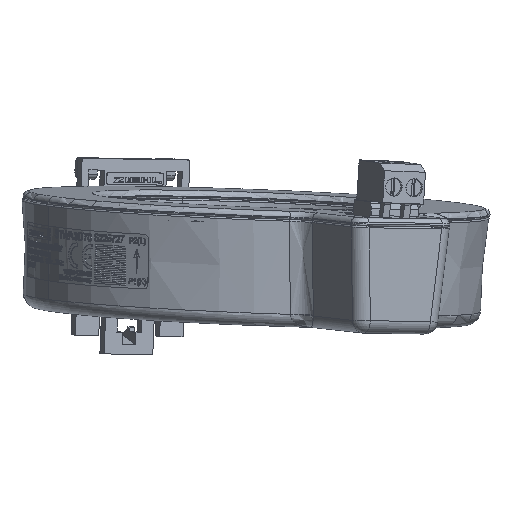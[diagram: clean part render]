
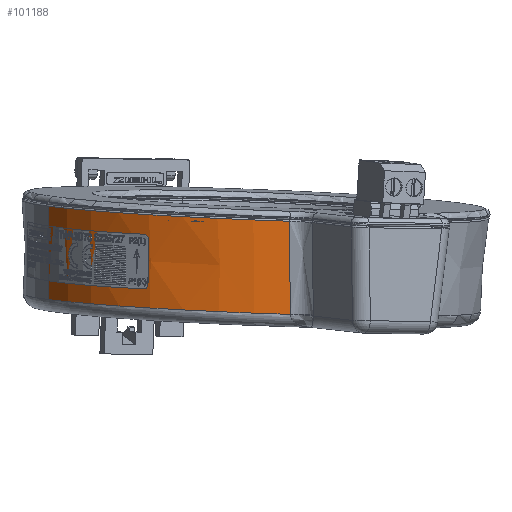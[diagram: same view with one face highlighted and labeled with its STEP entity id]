
A CAD part, front view. The second image highlights one B-rep face of the part: STEP entity #101188.
In plain terms, the highlighted conical face has half-angle 3 degrees and reference radius 51.172 mm.
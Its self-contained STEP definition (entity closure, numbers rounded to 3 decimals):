
#1287 = VERTEX_POINT ( 'NONE', #136589 ) ;
#8741 = DIRECTION ( 'NONE',  ( 0., -1., 0. ) ) ;
#17429 = LINE ( 'NONE', #104080, #59481 ) ;
#20355 = CIRCLE ( 'NONE', #59548, 50.101 ) ;
#22393 = FACE_OUTER_BOUND ( 'NONE', #115077, .T. ) ;
#28949 = DIRECTION ( 'NONE',  ( 0., -1., 0. ) ) ;
#43831 = EDGE_CURVE ( 'NONE', #197286, #1287, #183443, .T. ) ;
#45232 = CARTESIAN_POINT ( 'NONE',  ( 50.101, 25.682, 61.9 ) ) ;
#48846 = DIRECTION ( 'NONE',  ( 0., -1., 0. ) ) ;
#54589 = CARTESIAN_POINT ( 'NONE',  ( 16.688, 5.243, 110.275 ) ) ;
#59481 = VECTOR ( 'NONE', #198760, 1000. ) ;
#59548 = AXIS2_PLACEMENT_3D ( 'NONE', #143584, #48846, #159491 ) ;
#60119 = AXIS2_PLACEMENT_3D ( 'NONE', #123774, #28949, #139636 ) ;
#66692 = ORIENTED_EDGE ( 'NONE', *, *, #101209, .F. ) ;
#72266 = CARTESIAN_POINT ( 'NONE',  ( 0., 5.243, 61.9 ) ) ;
#101188 = ADVANCED_FACE ( 'NONE', ( #22393 ), #138687, .T. ) ;
#101209 = EDGE_CURVE ( 'NONE', #205065, #197286, #17429, .T. ) ;
#101626 = CARTESIAN_POINT ( 'NONE',  ( 15.715, 18.945, 109.846 ) ) ;
#104080 = CARTESIAN_POINT ( 'NONE',  ( 51.172, 5.243, 61.9 ) ) ;
#105136 = CARTESIAN_POINT ( 'NONE',  ( 51.172, 5.243, 61.9 ) ) ;
#115077 = EDGE_LOOP ( 'NONE', ( #66692, #159745, #197720, #161553 ) ) ;
#123774 = CARTESIAN_POINT ( 'NONE',  ( 0., 5.243, 61.9 ) ) ;
#124651 = VERTEX_POINT ( 'NONE', #158282 ) ;
#133492 = CARTESIAN_POINT ( 'NONE',  ( 15.239, 25.682, 109.627 ) ) ;
#136589 = CARTESIAN_POINT ( 'NONE',  ( 16.688, 5.243, 110.275 ) ) ;
#138687 = CONICAL_SURFACE ( 'NONE', #154279, 51.172, 0.052 ) ;
#139636 = DIRECTION ( 'NONE',  ( 0., 0., -1. ) ) ;
#143584 = CARTESIAN_POINT ( 'NONE',  ( 0., 25.682, 61.9 ) ) ;
#149393 = CARTESIAN_POINT ( 'NONE',  ( 16.198, 12.132, 110.061 ) ) ;
#154200 = B_SPLINE_CURVE_WITH_KNOTS ( 'NONE', 3,
 ( #133492, #101626, #149393, #54589 ),
 .UNSPECIFIED., .F., .F.,
 ( 4, 4 ),
 ( 0., 1. ),
 .UNSPECIFIED. ) ;
#154279 = AXIS2_PLACEMENT_3D ( 'NONE', #72266, #8741, #182961 ) ;
#158282 = CARTESIAN_POINT ( 'NONE',  ( 15.239, 25.682, 109.627 ) ) ;
#159491 = DIRECTION ( 'NONE',  ( 1., 0., 0. ) ) ;
#159745 = ORIENTED_EDGE ( 'NONE', *, *, #179395, .T. ) ;
#161553 = ORIENTED_EDGE ( 'NONE', *, *, #43831, .F. ) ;
#179395 = EDGE_CURVE ( 'NONE', #205065, #124651, #20355, .T. ) ;
#182961 = DIRECTION ( 'NONE',  ( 1., 0., 0. ) ) ;
#183443 = CIRCLE ( 'NONE', #60119, 51.172 ) ;
#194005 = EDGE_CURVE ( 'NONE', #124651, #1287, #154200, .T. ) ;
#197286 = VERTEX_POINT ( 'NONE', #105136 ) ;
#197720 = ORIENTED_EDGE ( 'NONE', *, *, #194005, .T. ) ;
#198760 = DIRECTION ( 'NONE',  ( 0.052, -0.999, 0. ) ) ;
#205065 = VERTEX_POINT ( 'NONE', #45232 ) ;
